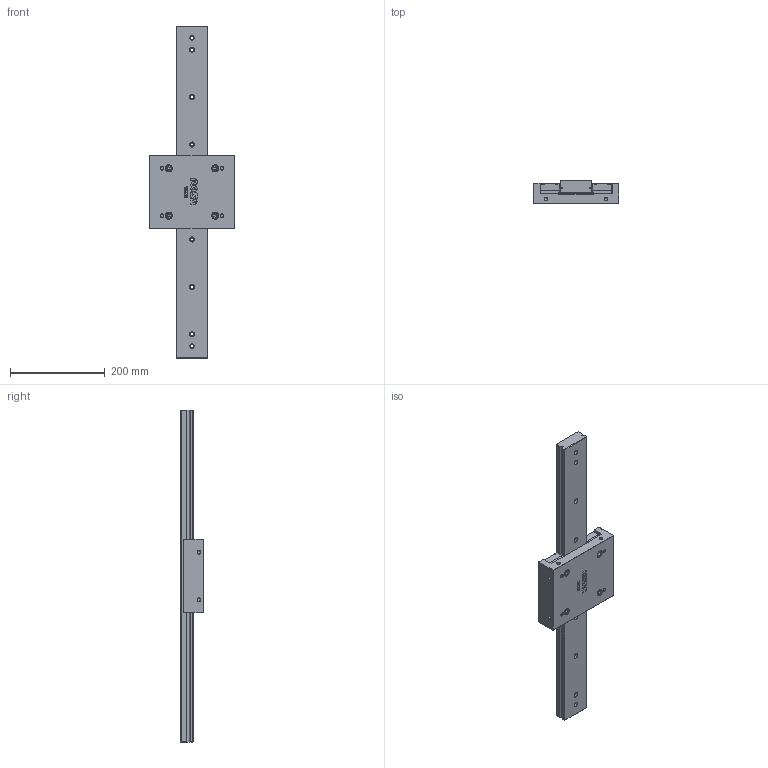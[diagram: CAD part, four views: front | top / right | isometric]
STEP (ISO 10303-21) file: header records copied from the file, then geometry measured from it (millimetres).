
FILE_DESCRIPTION(/* description */ ('TAVOLA TRKD09 L= 700 mm'),/* implementation_level */ '2;1');
FILE_NAME(/* name */ 'TRKD090700-00.stp',/* time_stamp */ '2024-01-30T11:44:29+01:00',/* author */ ('Rosa Sistemi'),/* organization */ (''),/* preprocessor_version */ 'ST-DEVELOPER v20',/* originating_system */ 'Autodesk Inventor 2024',/* authorisation */ '');
FILE_SCHEMA (('AUTOMOTIVE_DESIGN { 1 0 10303 214 3 1 1 }'));
Length unit declared in the file: millimetre
Products named in the file (2): TRKD090700-00; TRKD090700-00_1
Assembly tree (1 placements, depth 2):
  TRKD090700-00
    TRKD090700-00_1
Bounding box: 180 x 49 x 700 mm (x, y, z)
Volume: 2119309 mm3; surface area: 285891.1 mm2
Topology: 22 solids, 22 shells, 709 faces, 1803 edges, 1144 vertices
Faces by surface type: plane 429, cone 102, cylinder 93, bspline 31, sphere 30, torus 24
Full cylindrical faces by diameter (mm): 2 x2, 4.134 x4, 4.823 x1, 6 x8, 6.647 x23, 7 x2, 8 x1, 9 x3, 10.5 x11, 13 x4, 13.263 x1, 14 x4
Entity records: 22480 total; most frequent: CARTESIAN_POINT 4916, ORIENTED_EDGE 3462, DIRECTION 3401, EDGE_CURVE 1731, AXIS2_PLACEMENT_3D 1175, VERTEX_POINT 1144, LINE 1051, VECTOR 1051
